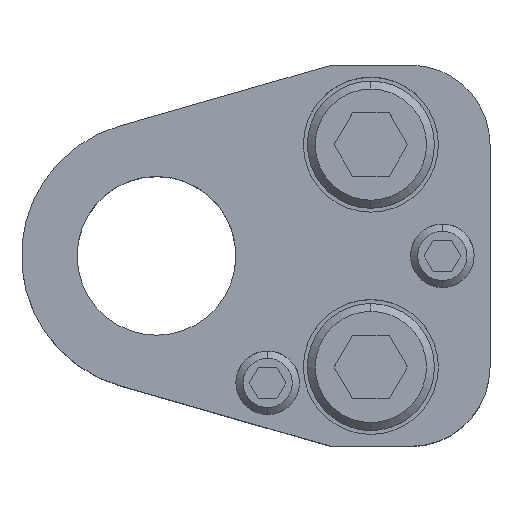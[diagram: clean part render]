
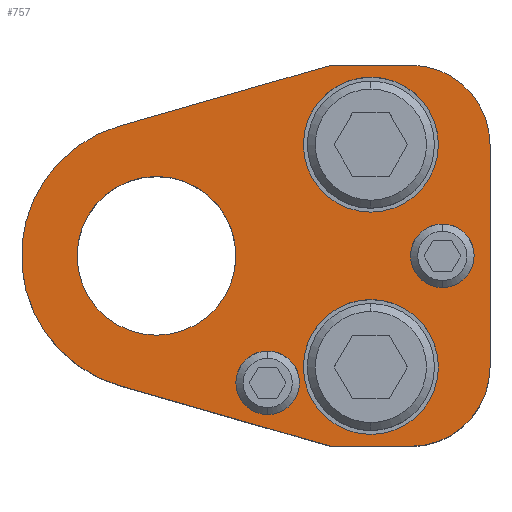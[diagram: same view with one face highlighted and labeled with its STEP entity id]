
A CAD part, top view. The second image highlights one B-rep face of the part: STEP entity #757.
In plain terms, the highlighted planar face has unit normal (0, 0, 1).
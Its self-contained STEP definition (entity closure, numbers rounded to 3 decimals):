
#428=LINE('',#3648,#598);
#433=LINE('',#3663,#603);
#437=LINE('',#3675,#607);
#442=LINE('',#3684,#612);
#447=LINE('',#3698,#617);
#598=VECTOR('',#2943,1.);
#603=VECTOR('',#2956,1.);
#607=VECTOR('',#2968,1.);
#612=VECTOR('',#2975,1.);
#617=VECTOR('',#2988,1.);
#757=ADVANCED_FACE('',(#863,#864,#865,#866,#867,#868),#834,.T.);
#834=PLANE('',#2455);
#863=FACE_BOUND('',#1003,.T.);
#864=FACE_BOUND('',#1004,.T.);
#865=FACE_BOUND('',#1005,.T.);
#866=FACE_BOUND('',#1006,.T.);
#867=FACE_BOUND('',#1007,.T.);
#868=FACE_BOUND('',#1008,.T.);
#1003=EDGE_LOOP('',(#1518,#1519,#1520,#1521,#1522,#1523,#1524,#1525));
#1004=EDGE_LOOP('',(#1526,#1527));
#1005=EDGE_LOOP('',(#1528,#1529));
#1006=EDGE_LOOP('',(#1530,#1531));
#1007=EDGE_LOOP('',(#1532,#1533));
#1008=EDGE_LOOP('',(#1534,#1535));
#1518=ORIENTED_EDGE('',*,*,#2038,.T.);
#1519=ORIENTED_EDGE('',*,*,#2020,.T.);
#1520=ORIENTED_EDGE('',*,*,#2024,.T.);
#1521=ORIENTED_EDGE('',*,*,#2027,.T.);
#1522=ORIENTED_EDGE('',*,*,#2030,.T.);
#1523=ORIENTED_EDGE('',*,*,#2033,.T.);
#1524=ORIENTED_EDGE('',*,*,#2045,.T.);
#1525=ORIENTED_EDGE('',*,*,#2041,.T.);
#1526=ORIENTED_EDGE('',*,*,#2080,.F.);
#1527=ORIENTED_EDGE('',*,*,#2081,.F.);
#1528=ORIENTED_EDGE('',*,*,#2082,.F.);
#1529=ORIENTED_EDGE('',*,*,#2083,.F.);
#1530=ORIENTED_EDGE('',*,*,#2070,.F.);
#1531=ORIENTED_EDGE('',*,*,#2066,.F.);
#1532=ORIENTED_EDGE('',*,*,#2064,.F.);
#1533=ORIENTED_EDGE('',*,*,#2060,.F.);
#1534=ORIENTED_EDGE('',*,*,#2084,.T.);
#1535=ORIENTED_EDGE('',*,*,#2085,.T.);
#1757=VERTEX_POINT('',#3647);
#1758=VERTEX_POINT('',#3649);
#1761=VERTEX_POINT('',#3656);
#1763=VERTEX_POINT('',#3662);
#1765=VERTEX_POINT('',#3668);
#1767=VERTEX_POINT('',#3674);
#1771=VERTEX_POINT('',#3685);
#1773=VERTEX_POINT('',#3691);
#1787=VERTEX_POINT('',#3731);
#1788=VERTEX_POINT('',#3732);
#1791=VERTEX_POINT('',#3743);
#1792=VERTEX_POINT('',#3744);
#1799=VERTEX_POINT('',#3771);
#1800=VERTEX_POINT('',#3772);
#1801=VERTEX_POINT('',#3775);
#1802=VERTEX_POINT('',#3776);
#1803=VERTEX_POINT('',#3779);
#1804=VERTEX_POINT('',#3780);
#2020=EDGE_CURVE('',#1758,#1757,#428,.T.);
#2024=EDGE_CURVE('',#1757,#1761,#2191,.T.);
#2027=EDGE_CURVE('',#1761,#1763,#433,.T.);
#2030=EDGE_CURVE('',#1763,#1765,#2193,.T.);
#2033=EDGE_CURVE('',#1765,#1767,#437,.T.);
#2038=EDGE_CURVE('',#1771,#1758,#442,.T.);
#2041=EDGE_CURVE('',#1773,#1771,#2196,.T.);
#2045=EDGE_CURVE('',#1767,#1773,#447,.T.);
#2060=EDGE_CURVE('',#1787,#1788,#2205,.T.);
#2064=EDGE_CURVE('',#1788,#1787,#2207,.T.);
#2066=EDGE_CURVE('',#1791,#1792,#2209,.T.);
#2070=EDGE_CURVE('',#1792,#1791,#2211,.T.);
#2080=EDGE_CURVE('',#1799,#1800,#2217,.T.);
#2081=EDGE_CURVE('',#1800,#1799,#2218,.T.);
#2082=EDGE_CURVE('',#1801,#1802,#2219,.T.);
#2083=EDGE_CURVE('',#1802,#1801,#2220,.T.);
#2084=EDGE_CURVE('',#1803,#1804,#2221,.T.);
#2085=EDGE_CURVE('',#1804,#1803,#2222,.T.);
#2191=CIRCLE('',#2406,10.);
#2193=CIRCLE('',#2410,10.);
#2196=CIRCLE('',#2416,17.);
#2205=CIRCLE('',#2429,4.);
#2207=CIRCLE('',#2432,4.);
#2209=CIRCLE('',#2435,4.);
#2211=CIRCLE('',#2438,4.);
#2217=CIRCLE('',#2449,8.5);
#2218=CIRCLE('',#2450,8.5);
#2219=CIRCLE('',#2451,8.5);
#2220=CIRCLE('',#2452,8.5);
#2221=CIRCLE('',#2453,10.);
#2222=CIRCLE('',#2454,10.);
#2406=AXIS2_PLACEMENT_3D('',#3657,#2949,#2950);
#2410=AXIS2_PLACEMENT_3D('',#3669,#2961,#2962);
#2416=AXIS2_PLACEMENT_3D('',#3690,#2981,#2982);
#2429=AXIS2_PLACEMENT_3D('',#3730,#3016,#3017);
#2432=AXIS2_PLACEMENT_3D('',#3739,#3024,#3025);
#2435=AXIS2_PLACEMENT_3D('',#3742,#3030,#3031);
#2438=AXIS2_PLACEMENT_3D('',#3751,#3038,#3039);
#2449=AXIS2_PLACEMENT_3D('',#3770,#3064,#3065);
#2450=AXIS2_PLACEMENT_3D('',#3773,#3066,#3067);
#2451=AXIS2_PLACEMENT_3D('',#3774,#3068,#3069);
#2452=AXIS2_PLACEMENT_3D('',#3777,#3070,#3071);
#2453=AXIS2_PLACEMENT_3D('',#3778,#3072,#3073);
#2454=AXIS2_PLACEMENT_3D('',#3781,#3074,#3075);
#2455=AXIS2_PLACEMENT_3D('',#3782,#3076,#3077);
#2943=DIRECTION('',(1.,0.,0.));
#2949=DIRECTION('',(0.,0.,1.));
#2950=DIRECTION('',(-0.707,0.707,0.));
#2956=DIRECTION('',(0.,1.,0.));
#2961=DIRECTION('',(0.,0.,1.));
#2962=DIRECTION('',(-0.707,-0.707,0.));
#2968=DIRECTION('',(-1.,0.,0.));
#2975=DIRECTION('',(0.961,-0.276,0.));
#2981=DIRECTION('',(0.,0.,1.));
#2982=DIRECTION('',(1.,0.,0.));
#2988=DIRECTION('',(-0.961,-0.276,0.));
#3016=DIRECTION('',(0.,0.,1.));
#3017=DIRECTION('',(-1.,0.,0.));
#3024=DIRECTION('',(0.,0.,1.));
#3025=DIRECTION('',(1.,0.,0.));
#3030=DIRECTION('',(0.,0.,1.));
#3031=DIRECTION('',(-1.,0.,0.));
#3038=DIRECTION('',(0.,0.,1.));
#3039=DIRECTION('',(1.,0.,0.));
#3064=DIRECTION('',(0.,0.,1.));
#3065=DIRECTION('',(1.,0.,0.));
#3066=DIRECTION('',(0.,0.,1.));
#3067=DIRECTION('',(-1.,0.,0.));
#3068=DIRECTION('',(0.,0.,1.));
#3069=DIRECTION('',(1.,0.,0.));
#3070=DIRECTION('',(0.,0.,1.));
#3071=DIRECTION('',(-1.,0.,0.));
#3072=DIRECTION('',(0.,0.,-1.));
#3073=DIRECTION('',(-1.,0.,0.));
#3074=DIRECTION('',(0.,0.,-1.));
#3075=DIRECTION('',(1.,0.,0.));
#3076=DIRECTION('',(0.,0.,1.));
#3077=DIRECTION('',(0.961,-0.276,0.));
#3647=CARTESIAN_POINT('',(32.,-24.,30.));
#3648=CARTESIAN_POINT('',(22.,-24.,30.));
#3649=CARTESIAN_POINT('',(22.,-24.,30.));
#3656=CARTESIAN_POINT('',(42.,-14.,30.));
#3657=CARTESIAN_POINT('',(32.,-14.,30.));
#3662=CARTESIAN_POINT('',(42.,14.,30.));
#3663=CARTESIAN_POINT('',(42.,14.,30.));
#3668=CARTESIAN_POINT('',(32.,24.,30.));
#3669=CARTESIAN_POINT('',(32.,14.,30.));
#3674=CARTESIAN_POINT('',(22.,24.,30.));
#3675=CARTESIAN_POINT('',(22.,24.,30.));
#3684=CARTESIAN_POINT('',(22.,-24.,30.));
#3685=CARTESIAN_POINT('',(-4.69,-16.34,30.));
#3690=CARTESIAN_POINT('',(0.,0.,30.));
#3691=CARTESIAN_POINT('',(-4.69,16.34,30.));
#3698=CARTESIAN_POINT('',(22.,24.,30.));
#3730=CARTESIAN_POINT('',(14.,-16.,30.));
#3731=CARTESIAN_POINT('',(14.,-20.,30.));
#3732=CARTESIAN_POINT('',(14.,-12.,30.));
#3739=CARTESIAN_POINT('',(14.,-16.,30.));
#3742=CARTESIAN_POINT('',(36.,0.,30.));
#3743=CARTESIAN_POINT('',(36.,-4.,30.));
#3744=CARTESIAN_POINT('',(36.,4.,30.));
#3751=CARTESIAN_POINT('',(36.,0.,30.));
#3770=CARTESIAN_POINT('',(27.,14.,30.));
#3771=CARTESIAN_POINT('',(27.,22.5,30.));
#3772=CARTESIAN_POINT('',(27.,5.5,30.));
#3773=CARTESIAN_POINT('',(27.,14.,30.));
#3774=CARTESIAN_POINT('',(27.,-14.,30.));
#3775=CARTESIAN_POINT('',(27.,-5.5,30.));
#3776=CARTESIAN_POINT('',(27.,-22.5,30.));
#3777=CARTESIAN_POINT('',(27.,-14.,30.));
#3778=CARTESIAN_POINT('',(0.,0.,30.));
#3779=CARTESIAN_POINT('',(0.,10.,30.));
#3780=CARTESIAN_POINT('',(0.,-10.,30.));
#3781=CARTESIAN_POINT('',(0.,0.,30.));
#3782=CARTESIAN_POINT('',(-4.69,-16.34,30.));
